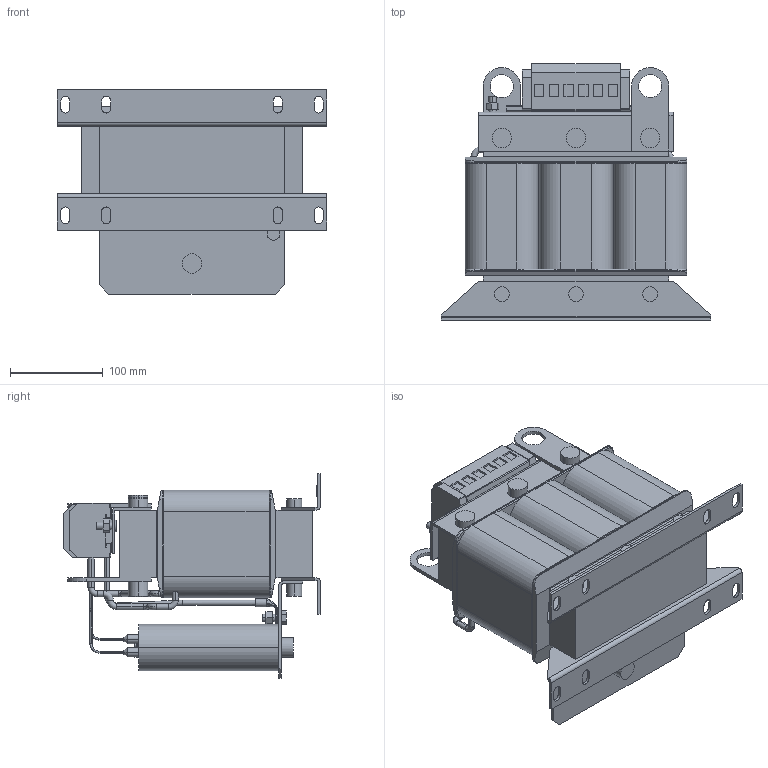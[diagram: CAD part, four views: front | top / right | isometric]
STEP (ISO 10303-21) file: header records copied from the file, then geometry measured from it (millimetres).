
FILE_DESCRIPTION (( 'STEP AP214' ), '1' );
FILE_NAME ('00Z1GX4-0018.STEP', '2022-11-16T10:08:46', ( '' ), ( '' ), 'SwSTEP 2.0', 'SolidWorks 2022', '' );
FILE_SCHEMA (( 'AUTOMOTIVE_DESIGN' ));
Length unit declared in the file: centimetre
Products named in the file (1): 00Z1GX4-0018
Bounding box: 291 x 276.7 x 220.2 mm (x, y, z)
Volume: 5460496.8 mm3; surface area: 517613.6 mm2
Topology: 1 solids, 1 shells, 745 faces, 1950 edges, 1256 vertices
Faces by surface type: plane 360, cylinder 270, torus 82, bspline 27, cone 6
Entity records: 25217 total; most frequent: CARTESIAN_POINT 6359, DIRECTION 3915, ORIENTED_EDGE 3900, EDGE_CURVE 1950, AXIS2_PLACEMENT_3D 1435, VERTEX_POINT 1256, LINE 1045, VECTOR 1045
